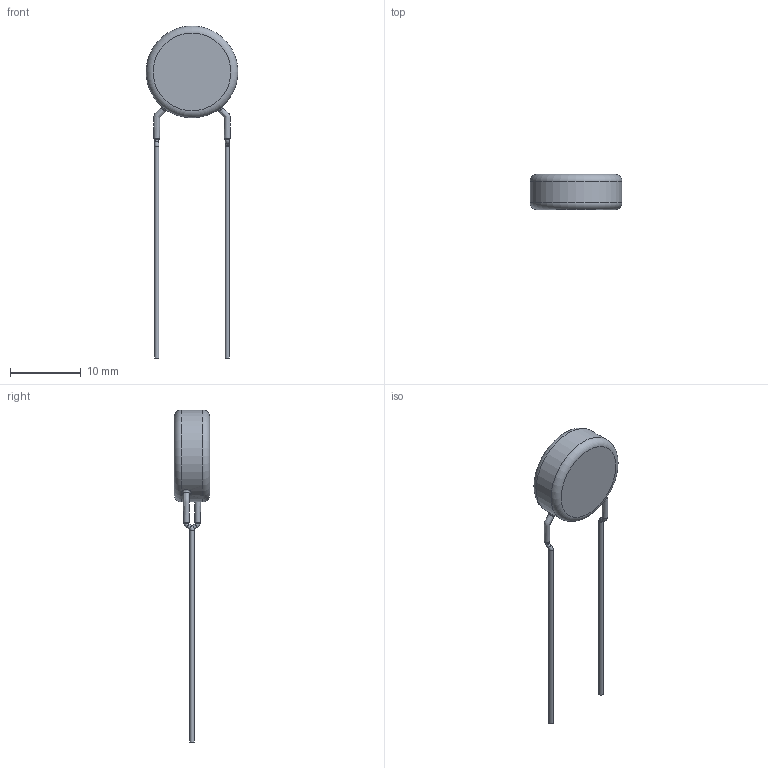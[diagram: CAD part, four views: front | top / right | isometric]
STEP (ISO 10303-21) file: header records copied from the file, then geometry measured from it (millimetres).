
FILE_DESCRIPTION(/* description */ (''),/* implementation_level */ '2;1');
FILE_NAME(/* name */ 'I:\Marketing\M6t1\3D-Models\Zchng-Werk-3\Upload for homepage\BCC\AY2\Inline Dia 0,6 LS 10\AY2472K49Y5US63V0.stp',/* time_stamp */ '2020-11-06T09:02:50+01:00',/* author */ ('truediger'),/* organization */ (''),/* preprocessor_version */ 'ST-DEVELOPER v18',/* originating_system */ 'Autodesk Inventor 2020',/* authorisation */ '');
FILE_SCHEMA (('AUTOMOTIVE_DESIGN { 1 0 10303 214 3 1 1 }'));
Length unit declared in the file: millimetre
Products named in the file (1): Bauteil1
Bounding box: 13 x 5 x 47 mm (x, y, z)
Volume: 669.7 mm3; surface area: 576.1 mm2
Topology: 1 solids, 1 shells, 27 faces, 63 edges, 42 vertices
Faces by surface type: cylinder 9, torus 6, plane 6, bspline 6
Full cylindrical faces by diameter (mm): 0.6 x4, 13 x1
Entity records: 1912 total; most frequent: CARTESIAN_POINT 1229, DIRECTION 137, ORIENTED_EDGE 126, AXIS2_PLACEMENT_3D 66, EDGE_CURVE 63, CIRCLE 42, VERTEX_POINT 42, EDGE_LOOP 31
